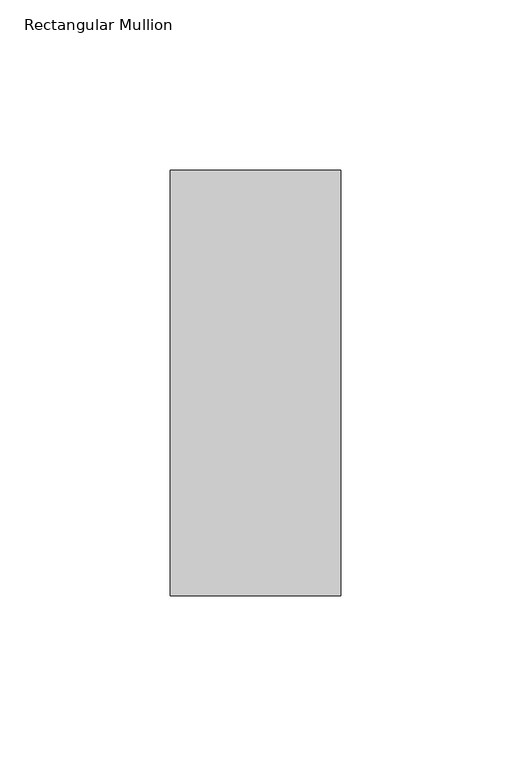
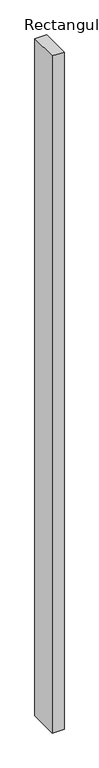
"""IFC4 building model written with IfcOpenShell, lengths in millimetres: member geometry, Rectangular Mullion : RSen_21_CWM_support profile - 50x125_gen_duco projects."""

from ifc_helpers import new_model, si_unit, frame, origin, place, context, project, spatial, polyline, outline, extrude, source, transform, mapped, element, save


def rectangular_mullion_3b5b8a15(model_context):
    return source(origin(), model_context, "Body", "SweptSolid", [
        extrude(outline(polyline([(25.0, -1.0), (-25.0, -1.0), (-25.0, 124.0), (25.0, 124.0), (25.0, -1.0)])), frame((0.0, 0.0, -3000.0), z_axis=(0.0, 0.0, 1.0), x_axis=(1.0, 0.0, 0.0)), (0.0, 0.0, 1.0), 3000.0),
    ])


if __name__ == "__main__":
    model = new_model("IFC4")
    model_context = context("Model", 3, world=origin())
    ifc_project = project(units=[si_unit("LENGTHUNIT", "METRE", prefix="MILLI")], contexts=[model_context])
    site = spatial("IfcSite", under=ifc_project)
    building = spatial("IfcBuilding", under=site)
    placement = place(None, origin())
    rectangular_mullion_shape = rectangular_mullion_3b5b8a15(model_context)
    element("IfcMember", 1, ObjectType="Rectangular Mullion : RSen_21_CWM_support profile - 50x125_gen_duco projects", at=placement, inside=building, context=model_context, shape_type="MappedRepresentation", body=[
        mapped(rectangular_mullion_shape, transform((0.0, 0.0, 0.0), x_axis=(1.0, 0.0, 0.0), y_axis=(0.0, 1.0, 0.0), z_axis=(0.0, 0.0, 1.0))),
    ])
    save(model, "model.ifc")
